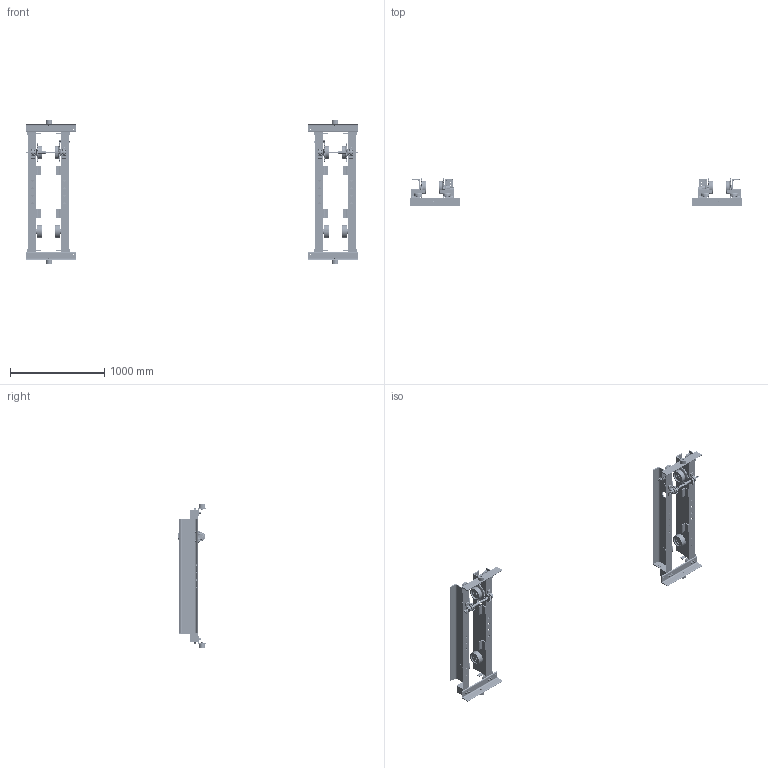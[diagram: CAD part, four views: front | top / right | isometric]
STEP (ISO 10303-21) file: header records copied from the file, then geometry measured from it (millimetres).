
FILE_DESCRIPTION (( 'STEP AP214' ), '1' );
FILE_NAME ('UG-3-0535.STEP', '2026-08-12T14:51:27', ( '' ), ( '' ), 'SwSTEP 2.0', 'SolidWorks 2026', '' );
FILE_SCHEMA (( 'AUTOMOTIVE_DESIGN' ));
Length unit declared in the file: inch
Products named in the file (71): 6257002_A308-308-006; 62681XX_6268102; 9000508; 62607XX_6260701; 62342XXU_6234202U; N6GO310303; 6232403; 9093433_9093433; 62608_8.02" FLANGE B; 6257003; N6QL210209; 9043411; 9000605; N6QL210207; MC08-021.4_48; N6QO310E9108_N6QO3101108 DOMESTIC; 9093146_9093146; 5204405_5204405; 9047120_9047120; 9012519_9012519; N6QL530E9101_Domestic; 9093354_9093354; N6QL210116; 62343XXU_6234302U; 62608_8.02" FLANGE A; 9093424_9093424; N6QL5301101; N6QL210115; 62607XX_6260702; N6QL520113; 62338XXU_6233802U; 9047268_B27.7M - 3BM1-68; 9012711_9012711; 6257001; 9093427_9093427; 9012515_9012515; 6233203; N6GO4505303; 9012514_9012514; 6232303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
Assembly tree (293 placements, depth 5):
  UG-3-0535
    62341XXU_6234102U
      62338XXU_6233802U
        MC08-021.4_48
        6257003
          6257002_A308-308-006
          6257001
        6257003
          6257002_A308-308-006
          6257001
      6232303  x2
      6232304  x2
      5204405_5204405  x2
      6233203  x2
      6257005
    62342XXU_6234202U  x2
      62339XXU_6233902U
        MC08-021.4_48
        6257003
          6257002_A308-308-006
          6257001
        6257003
          6257002_A308-308-006
          6257001
      6232303
      6232304
      5204405_5204405
      6233203
    62343XXU_6234302U
      62340XXU_6234002U
        MC08-021.4_48
        6257003
          6257002_A308-308-006
          6257001
        6257003
          6257002_A308-308-006
          6257001
      6232303  x2
      6232304  x2
      5204405_5204405  x2
      6233203  x2
      6257005
    62608_8.02" FLANGE B  x2
      62607XX_6260701
    62608_8.02" FLANGE A  x2
      62607XX_6260702
    6234503  x4
      6232603
      9047268_B27.7M - 3BM1-68
      9000508
    6232403  x8
    9047140_9047140  x8
    N6QL5301101  x4
      N6QL530E9101_Domestic
      9047268_B27.7M - 3BM1-68
      9000508
    6232404  x8
    9047125_B27.7M - 3AM1-23  x8
    9012515_9012515  x16
    9093433_9093433  x32
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Bounding box: 3525.82 x 302.91 x 1525.81 mm (x, y, z)
Volume: 34845802.5 mm3; surface area: 7158747.5 mm2
Topology: 308 solids, 422 shells, 22920 faces, 60790 edges, 40118 vertices
Faces by surface type: plane 13196, cylinder 5436, cone 2382, bspline 1664, torus 242
Entity records: 145281 total; most frequent: CARTESIAN_POINT 46721, ORIENTED_EDGE 20808, DIRECTION 18722, EDGE_CURVE 10410, AXIS2_PLACEMENT_3D 6941, VERTEX_POINT 6868, LINE 4840, VECTOR 4840
